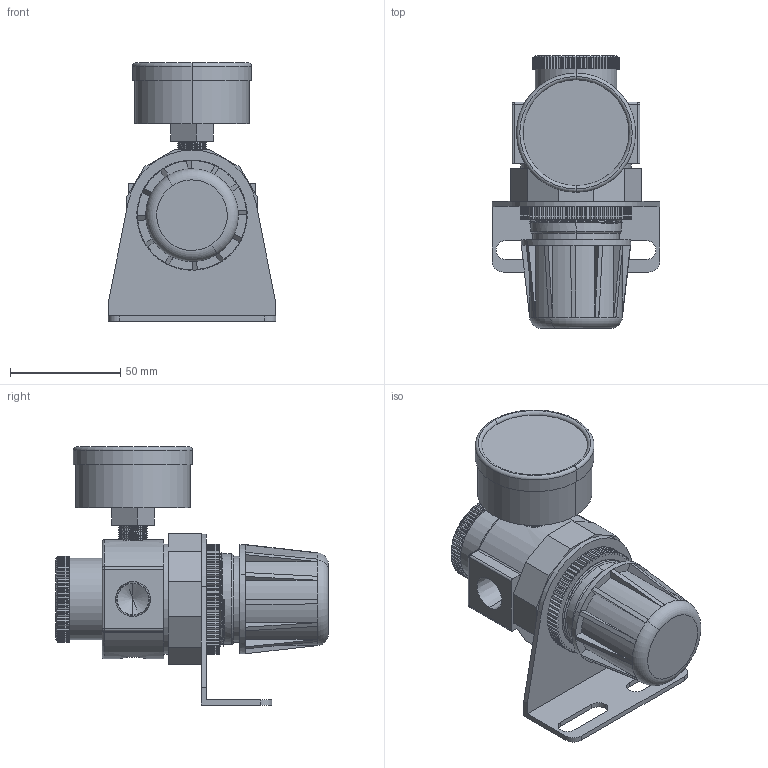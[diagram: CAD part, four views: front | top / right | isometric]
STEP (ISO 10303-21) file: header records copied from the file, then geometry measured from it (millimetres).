
FILE_DESCRIPTION (( 'STEP AP203' ), '1' );
FILE_NAME ('R010-03GB#.STEP', '2016-02-16T05:56:52', ( 'Toshiba' ), ( 'Toshiba' ), 'SwSTEP 2.0', 'SolidWorks 2014', '' );
FILE_SCHEMA (( 'CONFIG_CONTROL_DESIGN' ));
Length unit declared in the file: millimetre
Products named in the file (11): KWSAR10Y57; R010-1(03); R010-2; R010-3; 50-P-AD=1-4PT.SLDPRT; R010-4; R010-03GB#; KWR10X51; 50-P-AD=1-4PT-1; 50-P-AD=1-4PT-2; KWSAR10Y57-1
Assembly tree (10 placements, depth 3):
  R010-03GB#
    R010-1(03)
    R010-2
    R010-3
    R010-4
    KWSAR10Y57
      KWSAR10Y57-1
      KWR10X51
    50-P-AD=1-4PT.SLDPRT
      50-P-AD=1-4PT-1
      50-P-AD=1-4PT-2
Bounding box: 76 x 123.5 x 117 mm (x, y, z)
Volume: 282762.2 mm3; surface area: 65289.2 mm2
Topology: 8 solids, 8 shells, 715 faces, 2000 edges, 1301 vertices
Faces by surface type: plane 421, cylinder 253, cone 18, torus 15, sphere 4, bspline 4
Entity records: 26697 total; most frequent: CARTESIAN_POINT 7379, ORIENTED_EDGE 3976, DIRECTION 3668, EDGE_CURVE 1988, VERTEX_POINT 1301, VECTOR 1228, LINE 1228, AXIS2_PLACEMENT_3D 1220
